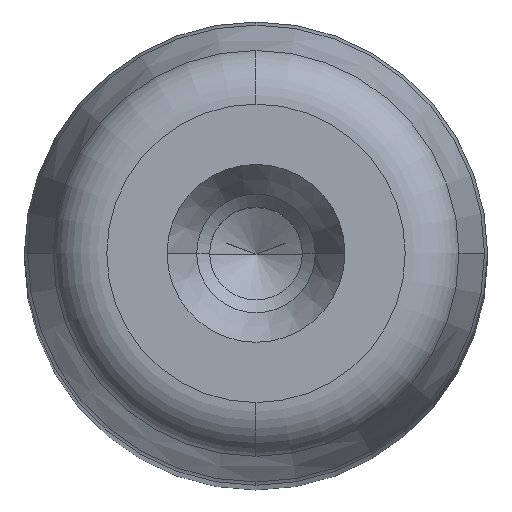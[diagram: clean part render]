
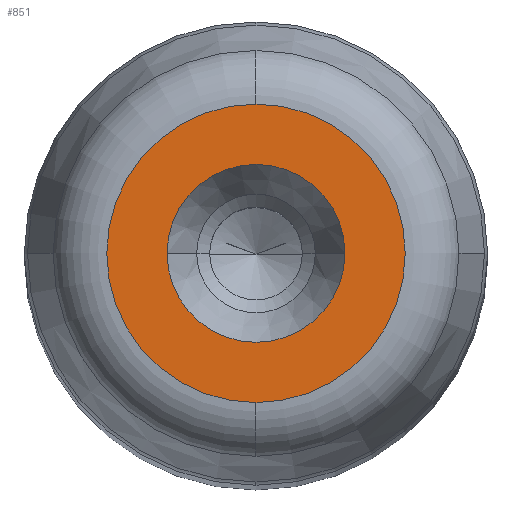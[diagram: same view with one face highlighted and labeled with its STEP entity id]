
A CAD part, top view. The second image highlights one B-rep face of the part: STEP entity #851.
In plain terms, the highlighted planar face has unit normal (0, 0, 1) as drawn and (0, 1, 0) by its records, which use the part's own axes.
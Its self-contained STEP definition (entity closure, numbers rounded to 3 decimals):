
#281=CARTESIAN_POINT('',(4.8,160.0,0.0));
#282=VERTEX_POINT('',#281);
#289=CARTESIAN_POINT('',(-4.8,160.0,0.));
#290=VERTEX_POINT('',#289);
#291=CARTESIAN_POINT('',(0.0,160.0,0.0));
#292=DIRECTION('',(0.0,1.0,0.0));
#293=DIRECTION('',(1.0,0.0,0.0));
#294=AXIS2_PLACEMENT_3D('',#291,#292,#293);
#295=CIRCLE('',#294,4.8);
#296=EDGE_CURVE('',#282,#290,#295,.T.);
#313=CARTESIAN_POINT('',(0.0,160.,8.054));
#314=VERTEX_POINT('',#313);
#324=CARTESIAN_POINT('',(0.,160.,-8.054));
#325=VERTEX_POINT('',#324);
#326=CARTESIAN_POINT('',(0.0,160.,0.0));
#327=DIRECTION('',(0.0,1.0,0.0));
#328=DIRECTION('',(1.0,0.0,0.0));
#329=AXIS2_PLACEMENT_3D('',#326,#327,#328);
#330=CIRCLE('',#329,8.054);
#331=EDGE_CURVE('',#325,#314,#330,.T.);
#812=CARTESIAN_POINT('',(8.054,160.,0.0));
#813=VERTEX_POINT('',#812);
#814=CARTESIAN_POINT('',(0.0,160.,0.0));
#815=DIRECTION('',(0.0,1.0,0.0));
#816=DIRECTION('',(1.0,0.0,0.0));
#817=AXIS2_PLACEMENT_3D('',#814,#815,#816);
#818=CIRCLE('',#817,8.054);
#819=EDGE_CURVE('',#813,#325,#818,.T.);
#821=CARTESIAN_POINT('',(0.0,160.,0.0));
#822=DIRECTION('',(0.0,1.0,0.0));
#823=DIRECTION('',(1.0,0.0,0.0));
#824=AXIS2_PLACEMENT_3D('',#821,#822,#823);
#825=CIRCLE('',#824,8.054);
#826=EDGE_CURVE('',#314,#813,#825,.T.);
#831=CARTESIAN_POINT('',(-8.86,160.0,-8.86));
#832=DIRECTION('',(0.0,1.0,0.0));
#833=DIRECTION('',(0.0,0.0,1.0));
#834=AXIS2_PLACEMENT_3D('',#831,#832,#833);
#835=PLANE('',#834);
#836=ORIENTED_EDGE('',*,*,#819,.T.);
#837=ORIENTED_EDGE('',*,*,#331,.T.);
#838=ORIENTED_EDGE('',*,*,#826,.T.);
#839=EDGE_LOOP('',(#836,#837,#838));
#840=FACE_OUTER_BOUND('',#839,.T.);
#841=ORIENTED_EDGE('',*,*,#296,.F.);
#842=CARTESIAN_POINT('',(0.0,160.0,0.0));
#843=DIRECTION('',(0.0,1.0,0.0));
#844=DIRECTION('',(1.0,0.0,0.0));
#845=AXIS2_PLACEMENT_3D('',#842,#843,#844);
#846=CIRCLE('',#845,4.8);
#847=EDGE_CURVE('',#290,#282,#846,.T.);
#848=ORIENTED_EDGE('',*,*,#847,.F.);
#849=EDGE_LOOP('',(#841,#848));
#850=FACE_BOUND('',#849,.T.);
#851=ADVANCED_FACE('',(#840,#850),#835,.T.);
